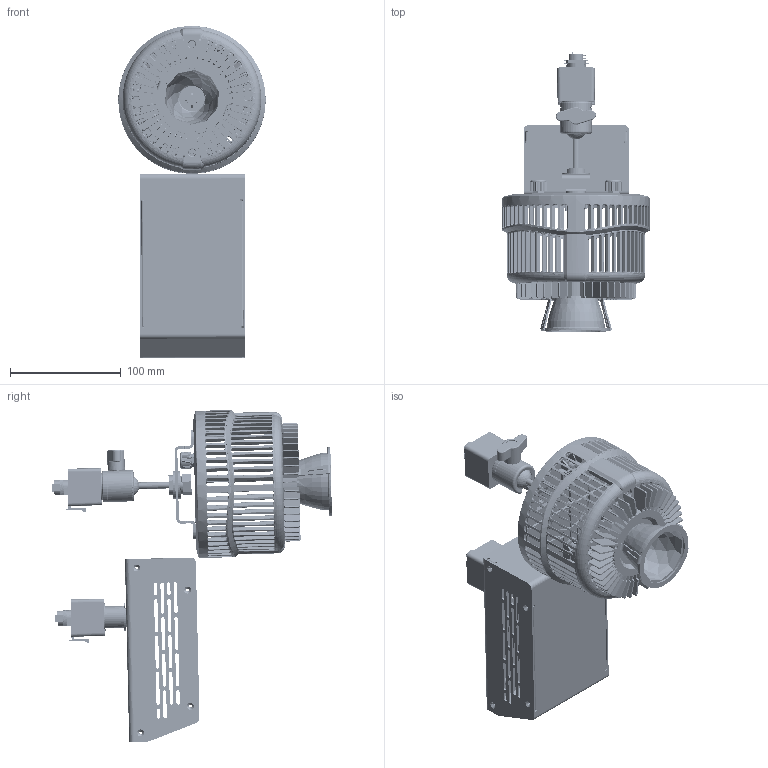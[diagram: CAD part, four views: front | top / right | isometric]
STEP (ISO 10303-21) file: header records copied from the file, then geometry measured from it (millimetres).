
FILE_DESCRIPTION (( 'STEP AP214' ), '1' );
FILE_NAME ('W500N-TG-PS.STEP', '2024-02-01T23:08:54', ( '' ), ( '' ), 'SwSTEP 2.0', 'SolidWorks 2022', '' );
FILE_SCHEMA (( 'AUTOMOTIVE_DESIGN' ));
Length unit declared in the file: millimetre
Products named in the file (32): 5120539-XXX_A1_Housing, OD=133, ID=121, T=78.1mm, For Reflector, Without Logo___; W500N-TG-PS; 5022445-XXX_A1_DC Plug for W Series, D=12mm_-002(Black); 5047581-XXX_A2_Track Adapter for Global Eco Track (GES Series)_For W500 Power Box; 5022708-XXX_A2_Ball Joint Axis, L=65.8mm___; 5022189_A1_Plate, OD=48, ID=23, T=2.0mm___; 5047581-XXX_A2_Track Adapter for Global Eco Track (GES Series)_Finish_2; 5022424-XXX_A2_250W Power Box Cover (TG&TEX-PS&CLP&TJ TYPE), 165x92x62.5(H)mm___; 5021416_A1_Hex Nut, M10xP1.5, T8 SUS___; 5022453-XXX_A1_35D Sink Holder B, 71.2x62.2x31.1(H)mm___; 5022452-003_A3_Reflector Sink Holder, D108x14.35(H)mm (-004 is White)_-003(Black); 5010177-XXX_A2_Assembly BOM, Kessil W500_55D-BD-[TEX]; 62280-1343006_ _SCREW, PAN HEAD TROX W-THD LOCK, SUS-410, BLACK, M3xL6mm___; 5060069-XXX_A2_W series Reflector-35, OD=62, H=45mm___; 5020897-2010216520_ _Helical Spring Washer Customized___; 5022493-XXX_A2_Spacer Support, ID10.5 OD20 H17mm___; 5120522-XXX_A4_Assembly BOM, W360&W500 Light Mounting Type_TG; 5022398-XXX_A1_Plug for W Series, 19x10x9.4mm_-002(Black); 5022430-XXX_A1_Ball Joint Part C (For TDE), L=18.9mm___; 5022693-XXX_A1_Bracket, 98.85x25x17.5, T=2.5mm___; 5120519-XXX_A3_Assembly BOM, Kessil W500 Power Box_TON(US)-PS; 5020757-001_A1_VR Nut, Kessil A360 Aquarium Light___; 5022431-XXX_A1_Ball Joint Part A, L=23.7mm___; 5022427-XXX_A4_250W Power Box FRAME (TG&TEX&CLP TYPE), 165x95x64mm___; 5120540-XXX_A1_Rear Panel, OD=133, T=13.65mm, W-Series_5120531-001 W500; 5120530-XXX_A1_Assembly BOM, W500 Reflector Type_Reflector - 55D-BD; 5021926-XXX_A2_KNOB, 18T, OD=14.9, ID=6, L=10MM_C1; 5022405-XXX_A1_Wing Knob Screws, M6xL8.0mm_-001; 5020893-2010525020_ _Flat Washer, M10, ID10.5 OD25.0, T2 SUS 304___; 5120529-XXX_A1_Assembly BOM, W500 Light Engine_Finish; 5020757-002_A2_VR Washer, Kessil A360 Aquarium Light___; 62282-5014005_ _Standard Types of Metric Set Screws, M4xL5, Black___
Assembly tree (36 placements, depth 4):
  W500N-TG-PS
    5120519-XXX_A3_Assembly BOM, Kessil W500 Power Box_TON(US)-PS
      5022427-XXX_A4_250W Power Box FRAME (TG&TEX&CLP TYPE), 165x95x64mm___
      5047581-XXX_A2_Track Adapter for Global Eco Track (GES Series)_For W500 Power Box
      5022493-XXX_A2_Spacer Support, ID10.5 OD20 H17mm___
      5022424-XXX_A2_250W Power Box Cover (TG&TEX-PS&CLP&TJ TYPE), 165x92x62.5(H)mm___
    5010177-XXX_A2_Assembly BOM, Kessil W500_55D-BD-[TEX]
      5120529-XXX_A1_Assembly BOM, W500 Light Engine_Finish
        5120540-XXX_A1_Rear Panel, OD=133, T=13.65mm, W-Series_5120531-001 W500
        5022398-XXX_A1_Plug for W Series, 19x10x9.4mm_-002(Black)
        5022445-XXX_A1_DC Plug for W Series, D=12mm_-002(Black)
        5020757-002_A2_VR Washer, Kessil A360 Aquarium Light___  x2
        5020757-001_A1_VR Nut, Kessil A360 Aquarium Light___  x2
        5021926-XXX_A2_KNOB, 18T, OD=14.9, ID=6, L=10MM_C1  x2
      5120530-XXX_A1_Assembly BOM, W500 Reflector Type_Reflector - 55D-BD
        5120539-XXX_A1_Housing, OD=133, ID=121, T=78.1mm, For Reflector, Without Logo___
        5022189_A1_Plate, OD=48, ID=23, T=2.0mm___
        62280-1343006_ _SCREW, PAN HEAD TROX W-THD LOCK, SUS-410, BLACK, M3xL6mm___  x2
        5022452-003_A3_Reflector Sink Holder, D108x14.35(H)mm (-004 is White)_-003(Black)
        5022453-XXX_A1_35D Sink Holder B, 71.2x62.2x31.1(H)mm___
        5060069-XXX_A2_W series Reflector-35, OD=62, H=45mm___
      5120522-XXX_A4_Assembly BOM, W360&W500 Light Mounting Type_TG
        5022431-XXX_A1_Ball Joint Part A, L=23.7mm___
        5022430-XXX_A1_Ball Joint Part C (For TDE), L=18.9mm___
        5022708-XXX_A2_Ball Joint Axis, L=65.8mm___
        62282-5014005_ _Standard Types of Metric Set Screws, M4xL5, Black___
        5022405-XXX_A1_Wing Knob Screws, M6xL8.0mm_-001
        5022693-XXX_A1_Bracket, 98.85x25x17.5, T=2.5mm___
        5047581-XXX_A2_Track Adapter for Global Eco Track (GES Series)_Finish_2
        5020893-2010525020_ _Flat Washer, M10, ID10.5 OD25.0, T2 SUS 304___  x2
        5020897-2010216520_ _Helical Spring Washer Customized___
        5021416_A1_Hex Nut, M10xP1.5, T8 SUS___
Bounding box: 133 x 252.79 x 299.89 mm (x, y, z)
Volume: 338838.2 mm3; surface area: 375406.4 mm2
Topology: 45 solids, 45 shells, 6979 faces, 19105 edges, 12147 vertices
Faces by surface type: plane 2611, cylinder 2485, bspline 903, cone 501, torus 457, sphere 22
Entity records: 334875 total; most frequent: CARTESIAN_POINT 168199, ORIENTED_EDGE 35540, DIRECTION 29714, EDGE_CURVE 17770, VERTEX_POINT 11277, AXIS2_PLACEMENT_3D 10843, LINE 8028, VECTOR 8028
